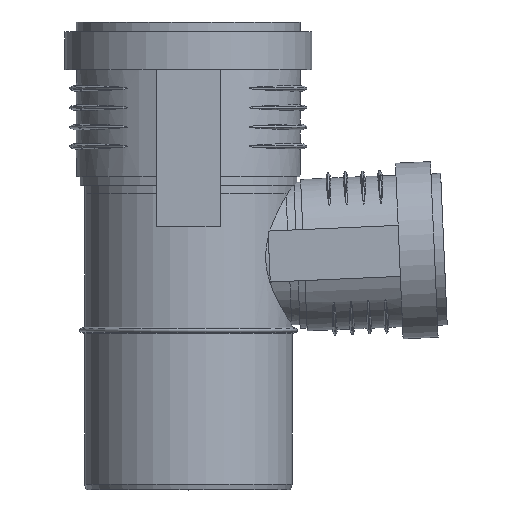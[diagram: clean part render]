
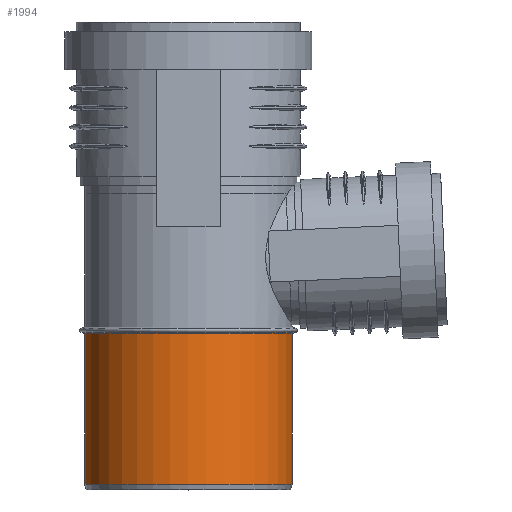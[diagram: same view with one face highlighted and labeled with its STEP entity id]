
A CAD part, top view. The second image highlights one B-rep face of the part: STEP entity #1994.
In plain terms, the highlighted cylindrical face has radius 37.6 mm (diameter 75.2 mm), a full revolution.
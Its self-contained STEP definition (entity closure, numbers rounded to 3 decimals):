
#259=CYLINDRICAL_SURFACE($,#2130,37.6);
#516=FACE_BOUND($,#705,.T.);
#591=FACE_OUTER_BOUND($,#704,.T.);
#704=EDGE_LOOP($,(#1457));
#705=EDGE_LOOP($,(#1458));
#886=CIRCLE($,#2128,37.6);
#888=CIRCLE($,#2131,37.6);
#984=VERTEX_POINT($,#2954);
#986=VERTEX_POINT($,#2959);
#1187=EDGE_CURVE($,#984,#984,#886,.T.);
#1189=EDGE_CURVE($,#986,#986,#888,.T.);
#1457=ORIENTED_EDGE($,*,*,#1189,.T.);
#1458=ORIENTED_EDGE($,*,*,#1187,.F.);
#1994=ADVANCED_FACE($,(#591,#516),#259,.T.);
#2128=AXIS2_PLACEMENT_3D($,#2955,#2363,#2364);
#2130=AXIS2_PLACEMENT_3D($,#2958,#2367,#2368);
#2131=AXIS2_PLACEMENT_3D($,#2960,#2369,#2370);
#2363=DIRECTION('center_axis',(0.,-1.,0.));
#2364=DIRECTION('ref_axis',(1.,0.,0.));
#2367=DIRECTION('center_axis',(0.,1.,0.));
#2368=DIRECTION('ref_axis',(1.,0.,0.));
#2369=DIRECTION('center_axis',(0.,-1.,0.));
#2370=DIRECTION('ref_axis',(1.,0.,0.));
#2954=CARTESIAN_POINT('',(-37.6,2.,0.));
#2955=CARTESIAN_POINT('Origin',(0.,2.,0.));
#2958=CARTESIAN_POINT('Origin',(0.,0.,0.));
#2959=CARTESIAN_POINT('',(-37.6,56.7,0.));
#2960=CARTESIAN_POINT('Origin',(0.,56.7,0.));
